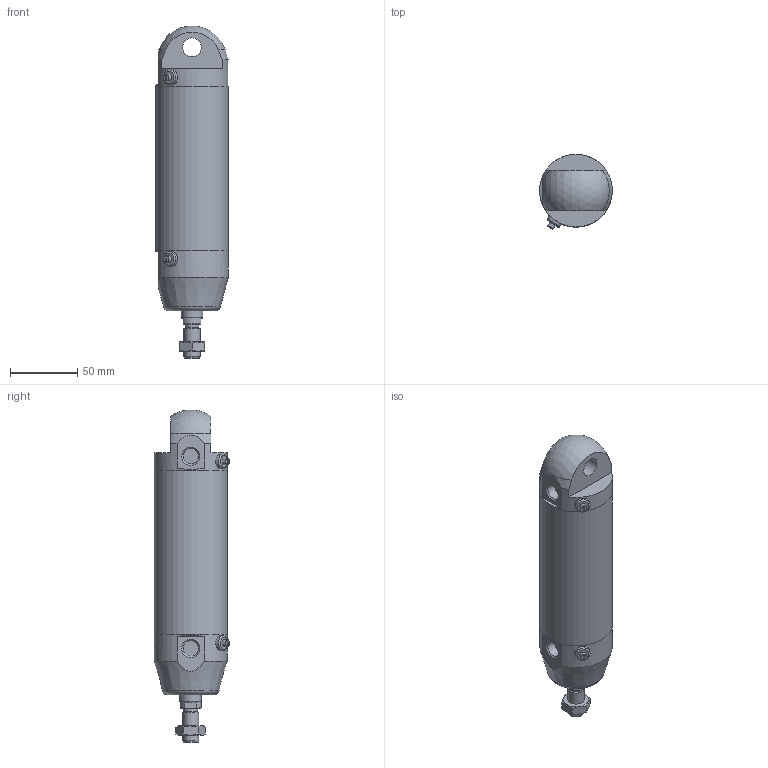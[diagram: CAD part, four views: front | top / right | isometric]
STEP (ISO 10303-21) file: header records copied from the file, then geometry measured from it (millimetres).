
FILE_DESCRIPTION(/* description */ (''),/* implementation_level */ '2;1');
FILE_NAME(/* name */ 'I:\Area Tecnica\Documenti\A-Manieri\_Inventor\12X\12X#A_###_####_#_#\12XBA_050_0080_#_#.stp',/* time_stamp */ '2015-04-24T09:18:39+02:00',/* author */ ('maniean1'),/* organization */ ('Pneumax S.p.A.'),/* preprocessor_version */ 'ST-DEVELOPER v15.2',/* originating_system */ 'Autodesk Inventor 2014',/* authorisation */ '');
FILE_SCHEMA (('AUTOMOTIVE_DESIGN { 1 0 10303 214 3 1 1 }'));
Length unit declared in the file: millimetre
Products named in the file (6): C1250_619-0080; 12X50_614; 12X50_607; S12X50_0080; 12X_50_11; 12XBA_050_0080_#_#
Bounding box: 54 x 55.88 x 246.83 mm (x, y, z)
Volume: 297081.3 mm3; surface area: 84157.9 mm2
Topology: 5 solids, 5 shells, 77 faces, 168 edges, 109 vertices
Faces by surface type: plane 43, cylinder 18, cone 12, torus 3, sphere 1
Full cylindrical faces by diameter (mm): 5 x2, 10.2 x1, 11 x2, 11.4 x2, 12 x2, 14 x2, 15.6 x1, 16 x1, 50 x2, 54 x3
Entity records: 2072 total; most frequent: CARTESIAN_POINT 428, DIRECTION 346, ORIENTED_EDGE 260, AXIS2_PLACEMENT_3D 152, EDGE_CURVE 130, EDGE_LOOP 122, VERTEX_POINT 100, ADVANCED_FACE 77
